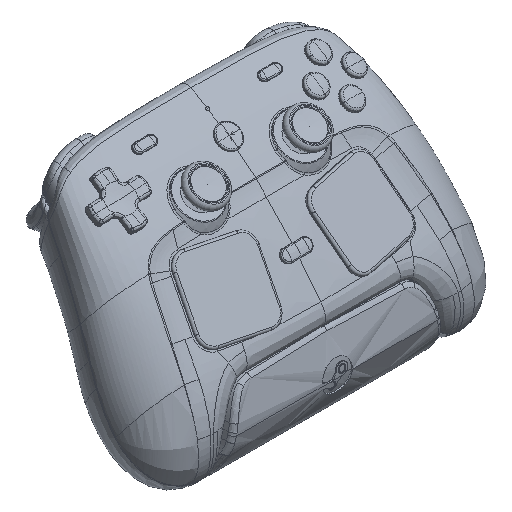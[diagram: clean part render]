
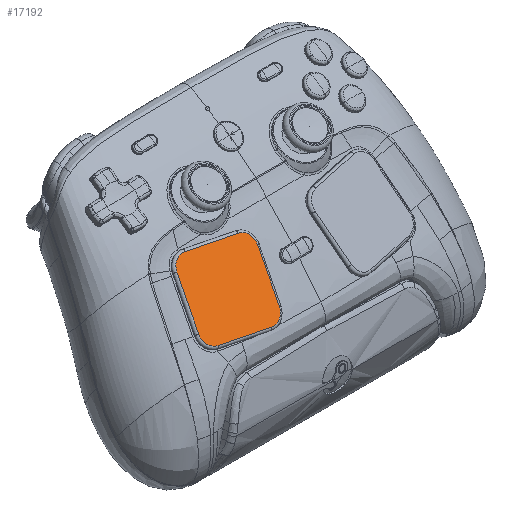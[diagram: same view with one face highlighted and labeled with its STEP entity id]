
A CAD part, isometric view. The second image highlights one B-rep face of the part: STEP entity #17192.
In plain terms, the highlighted planar face has unit normal (-0.079, -0.764, 0.641) as drawn and (-0.078, 0.963, 0.258) by its records, which use the part's own axes.
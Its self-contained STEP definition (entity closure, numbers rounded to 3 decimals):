
#3172=FACE_OUTER_BOUND('',#4282,.T.);
#4282=EDGE_LOOP('',(#13880,#13881,#13882,#13883,#13884,#13885,#13886,#13887));
#5123=CIRCLE('',#18306,5.437);
#5128=CIRCLE('',#18314,5.437);
#5131=CIRCLE('',#18319,5.437);
#5181=CIRCLE('',#18394,5.437);
#5693=LINE('',#65309,#6304);
#5694=LINE('',#65313,#6305);
#5695=LINE('',#65321,#6306);
#5697=LINE('',#65331,#6308);
#6304=VECTOR('',#20208,21.);
#6305=VECTOR('',#20213,21.);
#6306=VECTOR('',#20224,21.);
#6308=VECTOR('',#20238,21.);
#7344=VERTEX_POINT('',#65302);
#7345=VERTEX_POINT('',#65303);
#7346=VERTEX_POINT('',#65308);
#7347=VERTEX_POINT('',#65312);
#7348=VERTEX_POINT('',#65316);
#7349=VERTEX_POINT('',#65320);
#7350=VERTEX_POINT('',#65324);
#7351=VERTEX_POINT('',#65330);
#9445=EDGE_CURVE('',#7344,#7345,#5123,.T.);
#9448=EDGE_CURVE('',#7345,#7346,#5693,.T.);
#9450=EDGE_CURVE('',#7347,#7344,#5694,.T.);
#9452=EDGE_CURVE('',#7348,#7347,#5128,.T.);
#9454=EDGE_CURVE('',#7349,#7348,#5695,.T.);
#9456=EDGE_CURVE('',#7350,#7349,#5131,.T.);
#9459=EDGE_CURVE('',#7351,#7350,#5697,.T.);
#9778=EDGE_CURVE('',#7346,#7351,#5181,.T.);
#13880=ORIENTED_EDGE('',*,*,#9445,.T.);
#13881=ORIENTED_EDGE('',*,*,#9448,.T.);
#13882=ORIENTED_EDGE('',*,*,#9778,.T.);
#13883=ORIENTED_EDGE('',*,*,#9459,.T.);
#13884=ORIENTED_EDGE('',*,*,#9456,.T.);
#13885=ORIENTED_EDGE('',*,*,#9454,.T.);
#13886=ORIENTED_EDGE('',*,*,#9452,.T.);
#13887=ORIENTED_EDGE('',*,*,#9450,.T.);
#16571=PLANE('',#18418);
#17192=ADVANCED_FACE('',(#3172),#16571,.T.);
#18306=AXIS2_PLACEMENT_3D('',#65304,#20200,#20201);
#18314=AXIS2_PLACEMENT_3D('',#65317,#20218,#20219);
#18319=AXIS2_PLACEMENT_3D('',#65325,#20229,#20230);
#18394=AXIS2_PLACEMENT_3D('',#89337,#20425,#20426);
#18418=AXIS2_PLACEMENT_3D('',#90725,#20479,#20480);
#20200=DIRECTION('center_axis',(-0.078,0.963,0.258));
#20201=DIRECTION('ref_axis',(0.156,0.267,-0.951));
#20208=DIRECTION('',(-0.156,-0.267,0.951));
#20213=DIRECTION('',(-0.985,-0.034,-0.171));
#20218=DIRECTION('center_axis',(-0.078,0.963,0.258));
#20219=DIRECTION('ref_axis',(0.985,0.034,0.171));
#20224=DIRECTION('',(0.156,0.267,-0.951));
#20229=DIRECTION('center_axis',(-0.078,0.963,0.258));
#20230=DIRECTION('ref_axis',(-0.156,-0.267,0.951));
#20238=DIRECTION('',(0.985,0.034,0.171));
#20425=DIRECTION('center_axis',(-0.078,0.963,0.258));
#20426=DIRECTION('ref_axis',(-0.985,-0.034,-0.171));
#20479=DIRECTION('center_axis',(-0.078,0.963,0.258));
#20480=DIRECTION('ref_axis',(0.985,0.034,0.171));
#65302=CARTESIAN_POINT('',(-38.236,-3.099,44.787));
#65303=CARTESIAN_POINT('',(-44.437,-4.74,49.026));
#65304=CARTESIAN_POINT('Origin',(-39.084,-4.553,49.957));
#65308=CARTESIAN_POINT('',(-47.712,-10.357,68.994));
#65309=CARTESIAN_POINT('',(-44.437,-4.74,49.026));
#65312=CARTESIAN_POINT('',(-17.558,-2.377,48.381));
#65313=CARTESIAN_POINT('',(-17.558,-2.377,48.381));
#65316=CARTESIAN_POINT('',(-13.053,-3.645,54.482));
#65317=CARTESIAN_POINT('Origin',(-18.406,-3.832,53.551));
#65320=CARTESIAN_POINT('',(-16.328,-9.262,74.45));
#65321=CARTESIAN_POINT('',(-16.328,-9.262,74.45));
#65324=CARTESIAN_POINT('',(-22.529,-10.903,78.689));
#65325=CARTESIAN_POINT('Origin',(-21.681,-9.449,73.519));
#65330=CARTESIAN_POINT('',(-43.206,-11.625,75.095));
#65331=CARTESIAN_POINT('',(-43.206,-11.625,75.095));
#89337=CARTESIAN_POINT('Origin',(-42.359,-10.171,69.925));
#90725=CARTESIAN_POINT('Origin',(-30.382,-7.001,61.738));
